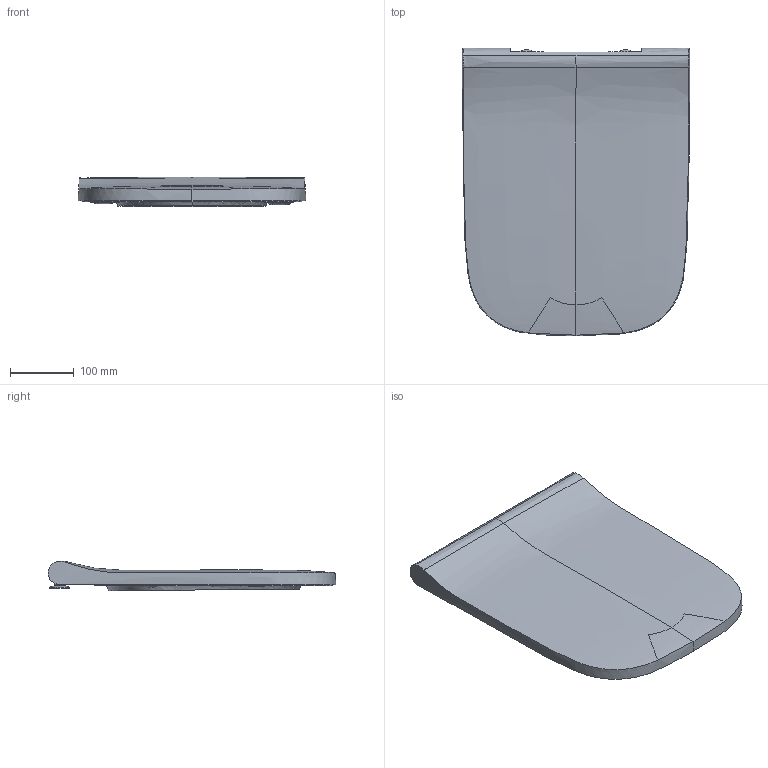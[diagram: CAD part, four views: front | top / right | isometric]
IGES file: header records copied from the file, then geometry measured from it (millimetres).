
Global section: file name: 500687; native system: Autodesk Inventor 2018; preprocessor: unknown; author: JANAN; date: 20200430.091555; units: millimetre
Bounding box: 355.99 x 449.5 x 46.27 mm (x, y, z)
Volume: 1417554.8 mm3; surface area: 566146.8 mm2
Topology: 4 solids, 14 shells, 467 faces, 1274 edges, 839 vertices
Faces by surface type: bspline 467
